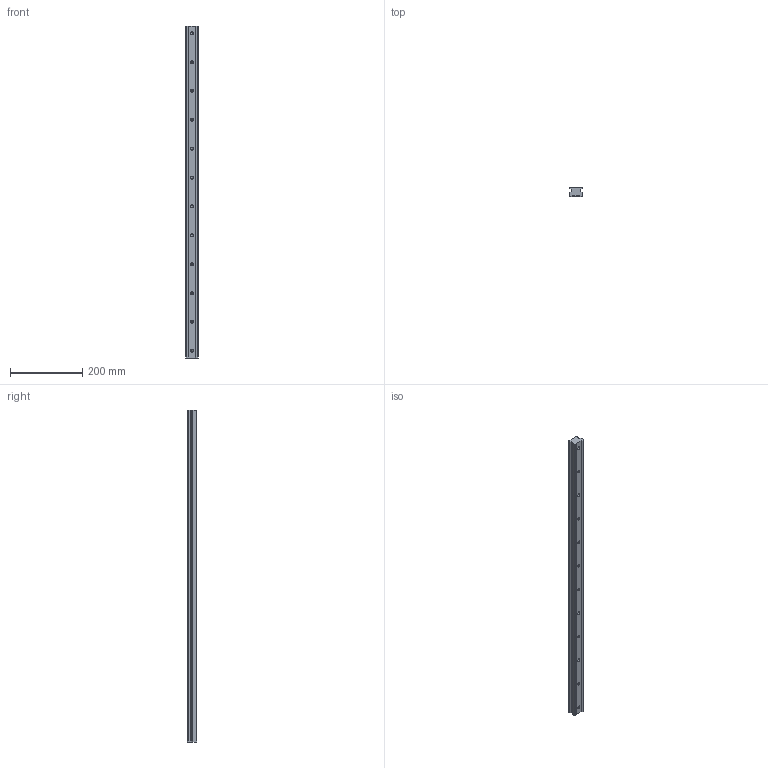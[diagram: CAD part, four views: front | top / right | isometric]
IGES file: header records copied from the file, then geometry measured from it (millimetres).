
Start section: SolidWorks IGES file using analytic representation for surfaces
Global section: file name: C:\Users\IanO\Desktop\Temp File\GENERAL\L1016_v2\L1016.RF35_v2\L1016.RF35_v2_20190612_IGES\L1016.RF35-0920.igs; native system: SolidWorks 2017; preprocessor: SolidWorks 2017; author: IanO; date: 190613.172625; units: millimetre
Bounding box: 34 x 26 x 920 mm (x, y, z)
Surface area: 121082.4 mm2 (no closed solid volume)
Topology: 0 solids, 0 shells, 110 faces, 1608 edges, 1584 vertices
Faces by surface type: revolution 76, bspline 34
